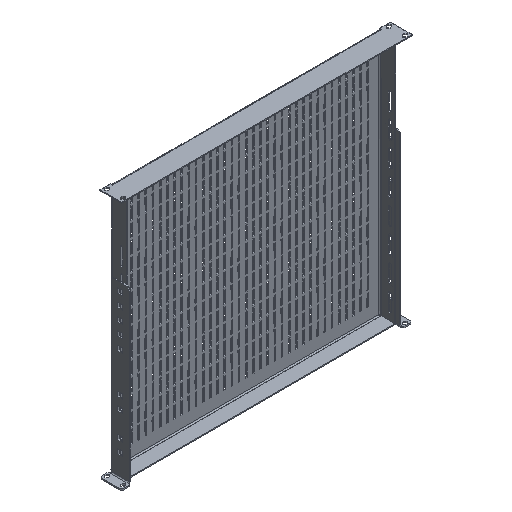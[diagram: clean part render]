
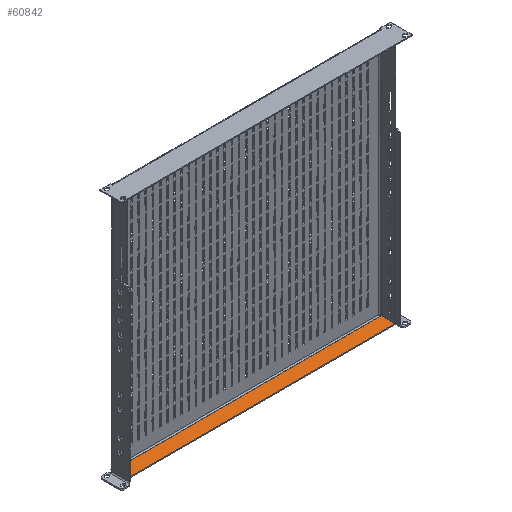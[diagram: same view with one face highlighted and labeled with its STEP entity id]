
A CAD part, isometric view. The second image highlights one B-rep face of the part: STEP entity #60842.
In plain terms, the highlighted free-form (B-spline) face has degree [1, 1] with [2, 2] control points.
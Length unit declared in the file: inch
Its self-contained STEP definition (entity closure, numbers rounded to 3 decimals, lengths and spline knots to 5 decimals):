
#60793=CARTESIAN_POINT('V184',(21.32283,0.,
   -19.428));
#60794=VERTEX_POINT('V184',#60793);
#60800=CARTESIAN_POINT('V186',(0.,0.0,
   -19.428));
#60801=VERTEX_POINT('V186',#60800);
#60802=CARTESIAN_POINT('E276',(0.,0.0,
   -19.428));
#60803=CARTESIAN_POINT('E276',(21.32283,0.0,
   -19.428));
#60804=B_SPLINE_CURVE_WITH_KNOTS('E276',1,(#60802,#60803),
   .POLYLINE_FORM.,.F.,.U.,(2,2),(1.03837,
   18.34456),.UNSPECIFIED.);
#60805=EDGE_CURVE('E276',#60801,#60794,#60804,.T.);
#60815=CARTESIAN_POINT('F107',(22.6022,1.16371,
   -19.428));
#60816=CARTESIAN_POINT('F107',(-1.27937,1.16371,
   -19.428));
#60817=CARTESIAN_POINT('F107',(22.6022,-0.06587,
   -19.428));
#60818=CARTESIAN_POINT('F107',(-1.27937,-0.06587,
   -19.428));
#60819=B_SPLINE_SURFACE_WITH_KNOTS('F107',1,1,((#60815,#60817),(
   #60816,#60818)),.PLANE_SURF.,.F.,.F.,.U.,(2,2),(2,2),(0.0,
   19.38293),(0.0,1.0),.UNSPECIFIED.);
#60820=CARTESIAN_POINT('V189',(0.,1.09784,
   -19.428));
#60821=VERTEX_POINT('V189',#60820);
#60822=CARTESIAN_POINT('V182',(21.32283,1.09784,
   -19.428));
#60823=VERTEX_POINT('V182',#60822);
#60824=CARTESIAN_POINT('E321',(0.,1.09784,
   -19.428));
#60825=CARTESIAN_POINT('E321',(21.32283,1.09784,
   -19.428));
#60826=B_SPLINE_CURVE_WITH_KNOTS('E321',1,(#60824,#60825),
   .POLYLINE_FORM.,.F.,.U.,(2,2),(0.05357,
   0.94643),.UNSPECIFIED.);
#60827=EDGE_CURVE('E321',#60821,#60823,#60826,.T.);
#60828=ORIENTED_EDGE('E321',*,*,#60827,.F.);
#60829=CARTESIAN_POINT('E283',(0.,1.09784,
   -19.428));
#60830=CARTESIAN_POINT('E283',(0.,0.,
   -19.428));
#60831=B_SPLINE_CURVE_WITH_KNOTS('E283',1,(#60829,#60830),
   .POLYLINE_FORM.,.F.,.U.,(2,2),(0.05357,
   0.94643),.UNSPECIFIED.);
#60832=EDGE_CURVE('E283',#60821,#60801,#60831,.T.);
#60833=ORIENTED_EDGE('E283',*,*,#60832,.T.);
#60834=ORIENTED_EDGE('E276',*,*,#60805,.T.);
#60835=CARTESIAN_POINT('E273',(21.32283,0.,
   -19.428));
#60836=CARTESIAN_POINT('E273',(21.32283,1.09784,
   -19.428));
#60837=B_SPLINE_CURVE_WITH_KNOTS('E273',1,(#60835,#60836),
   .POLYLINE_FORM.,.F.,.U.,(2,2),(0.01071,
   0.90357),.UNSPECIFIED.);
#60838=EDGE_CURVE('E273',#60794,#60823,#60837,.T.);
#60839=ORIENTED_EDGE('E273',*,*,#60838,.T.);
#60840=EDGE_LOOP('F107',(#60828,#60833,#60834,#60839));
#60841=FACE_OUTER_BOUND('F107',#60840,.T.);
#60842=ADVANCED_FACE('F107',(#60841),#60819,.T.);
